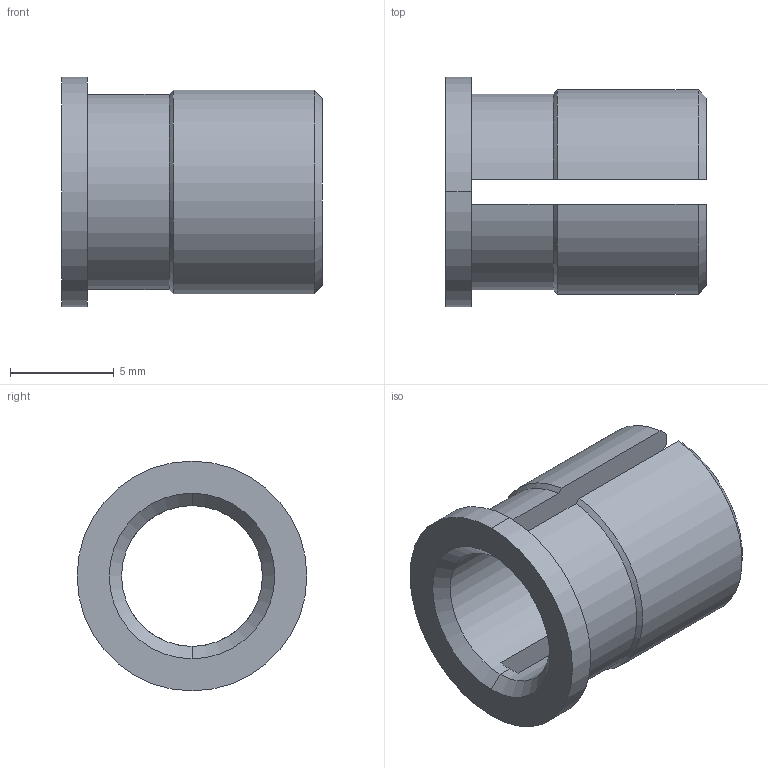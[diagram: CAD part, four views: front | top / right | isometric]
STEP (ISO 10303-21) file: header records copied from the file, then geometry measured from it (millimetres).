
FILE_DESCRIPTION (( 'STEP AP203' ), '1' );
FILE_NAME ('FSUK-EXPH-M08-S.STEP', '2021-04-15T15:15:32', ( '' ), ( '' ), 'SwSTEP 2.0', 'SolidWorks 2021', '' );
FILE_SCHEMA (( 'CONFIG_CONTROL_DESIGN' ));
Length unit declared in the file: millimetre
Products named in the file (1): FSUK-EXPH-M08-S
Bounding box: 12.6 x 11.1 x 11.1 mm (x, y, z)
Volume: 462 mm3; surface area: 781.5 mm2
Topology: 1 solids, 1 shells, 24 faces, 64 edges, 42 vertices
Faces by surface type: cylinder 8, cone 8, plane 8
Entity records: 851 total; most frequent: CARTESIAN_POINT 167, ORIENTED_EDGE 128, DIRECTION 128, EDGE_CURVE 64, AXIS2_PLACEMENT_3D 51, VERTEX_POINT 42, CIRCLE 26, EDGE_LOOP 26
